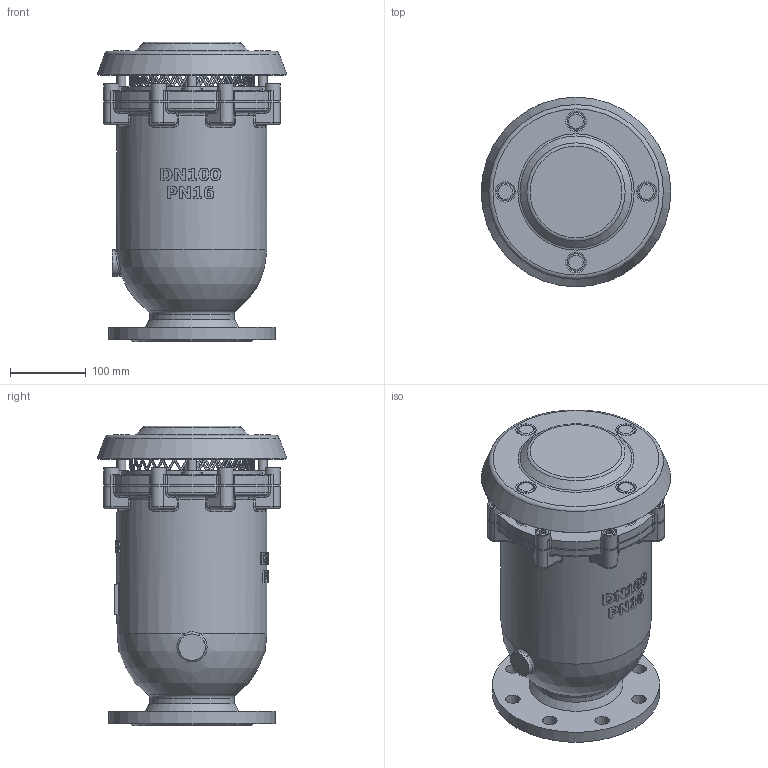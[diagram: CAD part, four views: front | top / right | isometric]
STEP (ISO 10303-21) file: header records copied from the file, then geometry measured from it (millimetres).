
FILE_DESCRIPTION(('STEP AP242'), '1');
FILE_NAME('Âîçäóøíûé êëàïàí DUOJET KX', '', ('UNSPECIFIED'), ('UNSPECIFIED'), 'C3D Converter', 'C3D Toolkit', '');
FILE_SCHEMA(('AP242_MANAGED_MODEL_BASED_3D_ENGINEERING_MIM_LF { 1 0 10303 442 1 1 4 }'));
Length unit declared in the file: millimetre
Assembly tree (33 placements, depth 2):
  (unnamed)
    (unnamed)
    (unnamed)
    (unnamed)
    (unnamed)
    (unnamed)
    (unnamed)
    (unnamed)  x4
    (unnamed)  x4
    (unnamed)
    (unnamed)
    (unnamed)
    (unnamed)  x8
    (unnamed)  x4
    (unnamed)  x4
Bounding box: 250 x 250 x 395 mm (x, y, z)
Volume: 3300562.7 mm3; surface area: 1355453.2 mm2
Topology: 47 solids, 48 shells, 1629 faces, 4221 edges, 2741 vertices
Faces by surface type: plane 547, bspline 412, cylinder 386, extrusion 138, torus 76, cone 57, sphere 13
Full cylindrical faces by diameter (mm): 5.4 x4, 6 x15, 7 x8, 8 x4, 9 x2, 10 x32, 12 x4, 14 x4, 16 x16, 18.274 x1, 19 x8, 20 x8, 25 x2, 31 x1, 35 x1, 100 x2, 112 x1, 135 x2, 141 x1, 158 x1, 162 x4, 164 x1, 174 x2, 186 x1, 196 x2, 198 x3, 220 x1
Entity records: 122020 total; most frequent: CARTESIAN_POINT 86980, ORIENTED_EDGE 7172, DIRECTION 4792, EDGE_CURVE 3586, VERTEX_POINT 2419, AXIS2_PLACEMENT_3D 1823, EDGE_LOOP 1823, B_SPLINE_CURVE_WITH_KNOTS 1753
